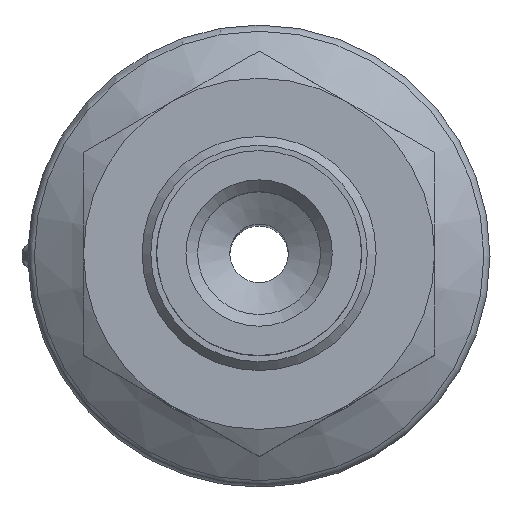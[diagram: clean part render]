
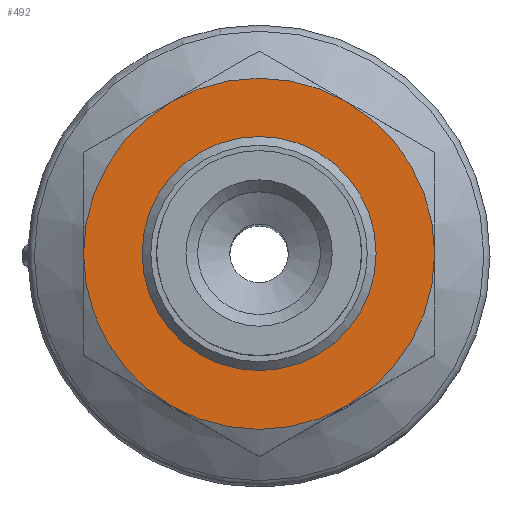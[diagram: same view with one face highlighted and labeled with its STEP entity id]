
A CAD part, top view. The second image highlights one B-rep face of the part: STEP entity #492.
In plain terms, the highlighted planar face has unit normal (0, 0, 1).
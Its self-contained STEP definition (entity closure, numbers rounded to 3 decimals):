
#492=ADVANCED_FACE('',(#703,#704),#705,.T.);
#703=FACE_BOUND('',#1028,.T.);
#704=FACE_OUTER_BOUND('',#1029,.T.);
#705=PLANE('',#1030);
#1028=EDGE_LOOP('',(#1622));
#1029=EDGE_LOOP('',(#1623,#1624,#1625,#1626,#1627,#1628));
#1030=AXIS2_PLACEMENT_3D('',#1629,#1630,#1631);
#1622=ORIENTED_EDGE('',*,*,#2209,.T.);
#1623=ORIENTED_EDGE('',*,*,#2210,.T.);
#1624=ORIENTED_EDGE('',*,*,#2211,.T.);
#1625=ORIENTED_EDGE('',*,*,#2175,.T.);
#1626=ORIENTED_EDGE('',*,*,#2197,.T.);
#1627=ORIENTED_EDGE('',*,*,#2212,.T.);
#1628=ORIENTED_EDGE('',*,*,#2207,.T.);
#1629=CARTESIAN_POINT('',(-6.928,-6.0,3.0));
#1630=DIRECTION('',(0.0,0.0,1.0));
#1631=DIRECTION('',(1.0,0.0,0.0));
#2175=EDGE_CURVE('',#2432,#2423,#2433,.T.);
#2197=EDGE_CURVE('',#2423,#2469,#2471,.T.);
#2207=EDGE_CURVE('',#2447,#2438,#2484,.T.);
#2209=EDGE_CURVE('',#2486,#2486,#2487,.T.);
#2210=EDGE_CURVE('',#2438,#2465,#2488,.T.);
#2211=EDGE_CURVE('',#2465,#2432,#2489,.T.);
#2212=EDGE_CURVE('',#2469,#2447,#2490,.T.);
#2423=VERTEX_POINT('',#2797);
#2432=VERTEX_POINT('',#2819);
#2433=CIRCLE('',#2820,6.0);
#2438=VERTEX_POINT('',#2830);
#2447=VERTEX_POINT('',#2852);
#2465=VERTEX_POINT('',#2896);
#2469=VERTEX_POINT('',#2908);
#2471=CIRCLE('',#2914,6.0);
#2484=CIRCLE('',#2943,6.0);
#2486=VERTEX_POINT('',#2945);
#2487=CIRCLE('',#2946,3.925);
#2488=CIRCLE('',#2947,6.0);
#2489=CIRCLE('',#2948,6.0);
#2490=CIRCLE('',#2949,6.0);
#2797=CARTESIAN_POINT('',(-5.196,3.0,3.0));
#2819=CARTESIAN_POINT('',(0.,6.0,3.0));
#2820=AXIS2_PLACEMENT_3D('',#3437,#3438,#3439);
#2830=CARTESIAN_POINT('',(5.196,-3.0,3.0));
#2852=CARTESIAN_POINT('',(0.,-6.0,3.0));
#2896=CARTESIAN_POINT('',(5.196,3.0,3.0));
#2908=CARTESIAN_POINT('',(-5.196,-3.0,3.0));
#2914=AXIS2_PLACEMENT_3D('',#3450,#3451,#3452);
#2943=AXIS2_PLACEMENT_3D('',#3465,#3466,#3467);
#2945=CARTESIAN_POINT('',(3.925,0.0,3.0));
#2946=AXIS2_PLACEMENT_3D('',#3471,#3472,#3473);
#2947=AXIS2_PLACEMENT_3D('',#3474,#3475,#3476);
#2948=AXIS2_PLACEMENT_3D('',#3477,#3478,#3479);
#2949=AXIS2_PLACEMENT_3D('',#3480,#3481,#3482);
#3437=CARTESIAN_POINT('',(0.,0.0,3.0));
#3438=DIRECTION('',(0.0,0.,1.0));
#3439=DIRECTION('',(0.0,-1.0,0.));
#3450=CARTESIAN_POINT('',(0.,0.0,3.0));
#3451=DIRECTION('',(0.0,0.,1.0));
#3452=DIRECTION('',(0.0,-1.0,0.));
#3465=CARTESIAN_POINT('',(0.,0.0,3.0));
#3466=DIRECTION('',(0.0,0.,1.0));
#3467=DIRECTION('',(0.0,-1.0,0.));
#3471=CARTESIAN_POINT('',(0.0,0.0,3.0));
#3472=DIRECTION('',(0.0,0.0,-1.0));
#3473=DIRECTION('',(1.0,0.0,0.0));
#3474=CARTESIAN_POINT('',(0.,0.0,3.0));
#3475=DIRECTION('',(0.0,0.,1.0));
#3476=DIRECTION('',(0.0,-1.0,0.));
#3477=CARTESIAN_POINT('',(0.,0.0,3.0));
#3478=DIRECTION('',(0.0,0.,1.0));
#3479=DIRECTION('',(0.0,-1.0,0.));
#3480=CARTESIAN_POINT('',(0.,0.0,3.0));
#3481=DIRECTION('',(0.0,0.,1.0));
#3482=DIRECTION('',(0.0,-1.0,0.));
